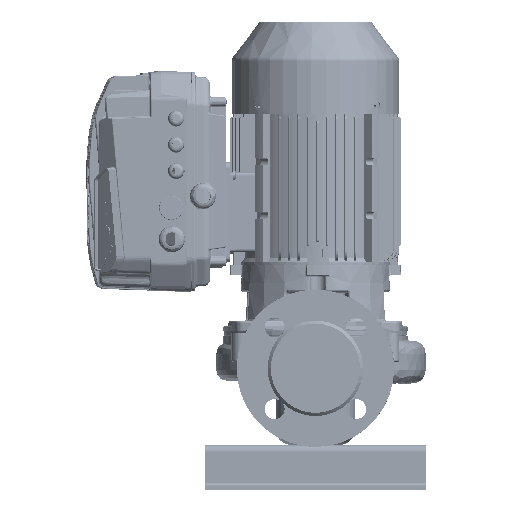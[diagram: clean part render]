
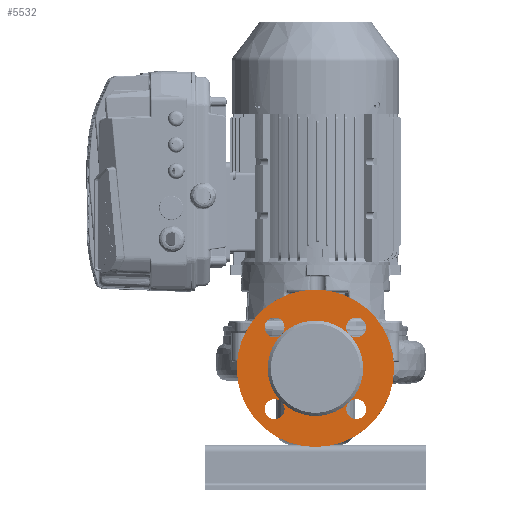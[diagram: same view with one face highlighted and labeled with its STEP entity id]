
A CAD part, front view. The second image highlights one B-rep face of the part: STEP entity #5532.
In plain terms, the highlighted planar face has unit normal (0, -1, 0) as drawn and (0, 1, 0) by its records, which use the part's own axes.
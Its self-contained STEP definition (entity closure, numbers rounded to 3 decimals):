
#5532=ADVANCED_FACE('',(#14531,#14532),#14533,.T.);
#5786=EDGE_CURVE('',#14935,#14929,#14936,.T.);
#5792=EDGE_CURVE('',#14945,#14946,#14947,.T.);
#5796=EDGE_CURVE('',#14953,#14954,#14955,.T.);
#5800=EDGE_CURVE('',#14961,#14962,#14963,.T.);
#5804=EDGE_CURVE('',#14969,#14970,#14971,.T.);
#5826=EDGE_CURVE('',#15011,#15012,#15013,.T.);
#5828=EDGE_CURVE('',#15015,#15011,#15016,.T.);
#5830=EDGE_CURVE('',#15018,#15015,#15019,.T.);
#5856=EDGE_CURVE('',#15053,#15018,#15054,.T.);
#5858=EDGE_CURVE('',#15056,#15053,#15057,.T.);
#5860=EDGE_CURVE('',#15012,#15056,#15059,.T.);
#5876=EDGE_CURVE('',#14929,#14935,#15080,.T.);
#5878=EDGE_CURVE('',#15056,#14961,#15082,.T.);
#5880=EDGE_CURVE('',#14962,#15056,#15084,.T.);
#5882=EDGE_CURVE('',#15053,#14969,#15086,.T.);
#5884=EDGE_CURVE('',#14970,#15053,#15088,.T.);
#5886=EDGE_CURVE('',#15015,#14945,#15090,.T.);
#5888=EDGE_CURVE('',#14946,#15015,#15092,.T.);
#5890=EDGE_CURVE('',#15011,#14953,#15094,.T.);
#5892=EDGE_CURVE('',#14954,#15011,#15096,.T.);
#14531=FACE_OUTER_BOUND('',#29876,.T.);
#14532=FACE_BOUND('',#29877,.T.);
#14533=PLANE('',#29878);
#14929=VERTEX_POINT('',#32257);
#14935=VERTEX_POINT('',#32278);
#14936=CIRCLE('',#32279,75.);
#14945=VERTEX_POINT('',#32291);
#14946=VERTEX_POINT('',#32292);
#14947=CIRCLE('',#32293,9.5);
#14953=VERTEX_POINT('',#32301);
#14954=VERTEX_POINT('',#32302);
#14955=CIRCLE('',#32303,9.5);
#14961=VERTEX_POINT('',#32311);
#14962=VERTEX_POINT('',#32312);
#14963=CIRCLE('',#32313,9.5);
#14969=VERTEX_POINT('',#32321);
#14970=VERTEX_POINT('',#32322);
#14971=CIRCLE('',#32323,9.5);
#15011=VERTEX_POINT('',#32375);
#15012=VERTEX_POINT('',#32376);
#15013=CIRCLE('',#32377,45.5);
#15015=VERTEX_POINT('',#32380);
#15016=CIRCLE('',#32381,45.5);
#15018=VERTEX_POINT('',#32384);
#15019=CIRCLE('',#32385,45.5);
#15053=VERTEX_POINT('',#32432);
#15054=CIRCLE('',#32433,45.5);
#15056=VERTEX_POINT('',#32436);
#15057=CIRCLE('',#32437,45.5);
#15059=CIRCLE('',#32440,45.5);
#15080=CIRCLE('',#32471,75.);
#15082=CIRCLE('',#32474,9.5);
#15084=CIRCLE('',#32477,9.5);
#15086=CIRCLE('',#32480,9.5);
#15088=CIRCLE('',#32483,9.5);
#15090=CIRCLE('',#32486,9.5);
#15092=CIRCLE('',#32489,9.5);
#15094=CIRCLE('',#32492,9.5);
#15096=CIRCLE('',#32495,9.5);
#29876=EDGE_LOOP('',(#99345,#99346));
#29877=EDGE_LOOP('',(#99347,#99348,#99349,#99350,#99351,#99352,#99353,#99354,#99355,#99356,#99357,#99358,#99359,#99360,#99361,#99362,#99363,#99364));
#29878=AXIS2_PLACEMENT_3D('',#99365,#99366,#99367);
#32257=CARTESIAN_POINT('',(-75.,122.,-6.));
#32278=CARTESIAN_POINT('',(75.,122.,-6.));
#32279=AXIS2_PLACEMENT_3D('',#100481,#100482,#100483);
#32291=CARTESIAN_POINT('',(44.25,122.,25.047));
#32292=CARTESIAN_POINT('',(33.532,122.,40.735));
#32293=AXIS2_PLACEMENT_3D('',#100490,#100491,#100492);
#32301=CARTESIAN_POINT('',(-31.047,122.,38.25));
#32302=CARTESIAN_POINT('',(-46.735,122.,27.532));
#32303=AXIS2_PLACEMENT_3D('',#100496,#100497,#100498);
#32311=CARTESIAN_POINT('',(-44.25,122.,-37.047));
#32312=CARTESIAN_POINT('',(-33.532,122.,-52.735));
#32313=AXIS2_PLACEMENT_3D('',#100502,#100503,#100504);
#32321=CARTESIAN_POINT('',(31.047,122.,-50.25));
#32322=CARTESIAN_POINT('',(46.735,122.,-39.532));
#32323=AXIS2_PLACEMENT_3D('',#100508,#100509,#100510);
#32375=CARTESIAN_POINT('',(-32.173,122.,26.173));
#32376=CARTESIAN_POINT('',(-45.5,122.,-6.));
#32377=AXIS2_PLACEMENT_3D('',#100539,#100540,#100541);
#32380=CARTESIAN_POINT('',(32.173,122.,26.173));
#32381=AXIS2_PLACEMENT_3D('',#100542,#100543,#100544);
#32384=CARTESIAN_POINT('',(45.5,122.,-6.));
#32385=AXIS2_PLACEMENT_3D('',#100545,#100546,#100547);
#32432=CARTESIAN_POINT('',(32.173,122.,-38.173));
#32433=AXIS2_PLACEMENT_3D('',#100584,#100585,#100586);
#32436=CARTESIAN_POINT('',(-32.173,122.,-38.173));
#32437=AXIS2_PLACEMENT_3D('',#100587,#100588,#100589);
#32440=AXIS2_PLACEMENT_3D('',#100590,#100591,#100592);
#32471=AXIS2_PLACEMENT_3D('',#100610,#100611,#100612);
#32474=AXIS2_PLACEMENT_3D('',#100613,#100614,#100615);
#32477=AXIS2_PLACEMENT_3D('',#100616,#100617,#100618);
#32480=AXIS2_PLACEMENT_3D('',#100619,#100620,#100621);
#32483=AXIS2_PLACEMENT_3D('',#100622,#100623,#100624);
#32486=AXIS2_PLACEMENT_3D('',#100625,#100626,#100627);
#32489=AXIS2_PLACEMENT_3D('',#100628,#100629,#100630);
#32492=AXIS2_PLACEMENT_3D('',#100631,#100632,#100633);
#32495=AXIS2_PLACEMENT_3D('',#100634,#100635,#100636);
#99345=ORIENTED_EDGE('',*,*,#5876,.F.);
#99346=ORIENTED_EDGE('',*,*,#5786,.F.);
#99347=ORIENTED_EDGE('',*,*,#5826,.T.);
#99348=ORIENTED_EDGE('',*,*,#5860,.T.);
#99349=ORIENTED_EDGE('',*,*,#5878,.T.);
#99350=ORIENTED_EDGE('',*,*,#5800,.T.);
#99351=ORIENTED_EDGE('',*,*,#5880,.T.);
#99352=ORIENTED_EDGE('',*,*,#5858,.T.);
#99353=ORIENTED_EDGE('',*,*,#5882,.T.);
#99354=ORIENTED_EDGE('',*,*,#5804,.T.);
#99355=ORIENTED_EDGE('',*,*,#5884,.T.);
#99356=ORIENTED_EDGE('',*,*,#5856,.T.);
#99357=ORIENTED_EDGE('',*,*,#5830,.T.);
#99358=ORIENTED_EDGE('',*,*,#5886,.T.);
#99359=ORIENTED_EDGE('',*,*,#5792,.T.);
#99360=ORIENTED_EDGE('',*,*,#5888,.T.);
#99361=ORIENTED_EDGE('',*,*,#5828,.T.);
#99362=ORIENTED_EDGE('',*,*,#5890,.T.);
#99363=ORIENTED_EDGE('',*,*,#5796,.T.);
#99364=ORIENTED_EDGE('',*,*,#5892,.T.);
#99365=CARTESIAN_POINT('',(60.25,122.,-6.));
#99366=DIRECTION('',(0.0,1.0,0.0));
#99367=DIRECTION('',(0.0,0.0,1.0));
#100481=CARTESIAN_POINT('',(0.,122.,-6.));
#100482=DIRECTION('',(0.,-1.0,0.));
#100483=DIRECTION('',(1.0,0.,0.));
#100490=CARTESIAN_POINT('',(38.891,122.,32.891));
#100491=DIRECTION('',(0.,-1.0,0.));
#100492=DIRECTION('',(0.564,0.,-0.826));
#100496=CARTESIAN_POINT('',(-38.891,122.,32.891));
#100497=DIRECTION('',(0.,-1.0,0.));
#100498=DIRECTION('',(0.826,0.,0.564));
#100502=CARTESIAN_POINT('',(-38.891,122.,-44.891));
#100503=DIRECTION('',(0.,-1.0,0.));
#100504=DIRECTION('',(-0.564,0.,0.826));
#100508=CARTESIAN_POINT('',(38.891,122.,-44.891));
#100509=DIRECTION('',(0.0,-1.0,-0.0));
#100510=DIRECTION('',(-0.826,0.0,-0.564));
#100539=CARTESIAN_POINT('',(0.,122.,-6.));
#100540=DIRECTION('',(0.0,-1.0,0.0));
#100541=DIRECTION('',(1.0,0.0,0.));
#100542=CARTESIAN_POINT('',(0.,122.,-6.));
#100543=DIRECTION('',(0.0,-1.0,0.0));
#100544=DIRECTION('',(1.0,0.0,0.));
#100545=CARTESIAN_POINT('',(0.,122.,-6.));
#100546=DIRECTION('',(0.0,-1.0,0.0));
#100547=DIRECTION('',(1.0,0.0,0.));
#100584=CARTESIAN_POINT('',(0.,122.,-6.));
#100585=DIRECTION('',(0.0,-1.0,0.0));
#100586=DIRECTION('',(1.0,0.0,0.));
#100587=CARTESIAN_POINT('',(0.,122.,-6.));
#100588=DIRECTION('',(0.0,-1.0,0.0));
#100589=DIRECTION('',(1.0,0.0,0.));
#100590=CARTESIAN_POINT('',(0.,122.,-6.));
#100591=DIRECTION('',(0.0,-1.0,0.0));
#100592=DIRECTION('',(1.0,0.0,0.));
#100610=CARTESIAN_POINT('',(0.,122.,-6.));
#100611=DIRECTION('',(0.,-1.0,0.));
#100612=DIRECTION('',(1.0,0.,0.));
#100613=CARTESIAN_POINT('',(-38.891,122.,-44.891));
#100614=DIRECTION('',(0.,-1.0,0.));
#100615=DIRECTION('',(-0.564,0.,0.826));
#100616=CARTESIAN_POINT('',(-38.891,122.,-44.891));
#100617=DIRECTION('',(0.,-1.0,0.));
#100618=DIRECTION('',(-0.564,0.,0.826));
#100619=CARTESIAN_POINT('',(38.891,122.,-44.891));
#100620=DIRECTION('',(0.0,-1.0,-0.0));
#100621=DIRECTION('',(-0.826,0.0,-0.564));
#100622=CARTESIAN_POINT('',(38.891,122.,-44.891));
#100623=DIRECTION('',(0.0,-1.0,-0.0));
#100624=DIRECTION('',(-0.826,0.0,-0.564));
#100625=CARTESIAN_POINT('',(38.891,122.,32.891));
#100626=DIRECTION('',(0.,-1.0,0.));
#100627=DIRECTION('',(0.564,0.,-0.826));
#100628=CARTESIAN_POINT('',(38.891,122.,32.891));
#100629=DIRECTION('',(0.,-1.0,0.));
#100630=DIRECTION('',(0.564,0.,-0.826));
#100631=CARTESIAN_POINT('',(-38.891,122.,32.891));
#100632=DIRECTION('',(0.,-1.0,0.));
#100633=DIRECTION('',(0.826,0.,0.564));
#100634=CARTESIAN_POINT('',(-38.891,122.,32.891));
#100635=DIRECTION('',(0.,-1.0,0.));
#100636=DIRECTION('',(0.826,0.,0.564));
